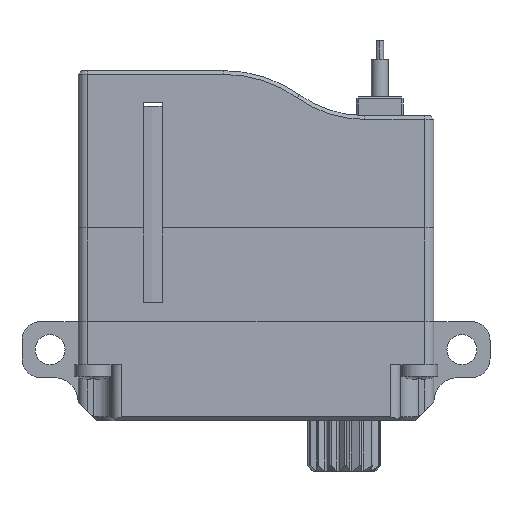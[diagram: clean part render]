
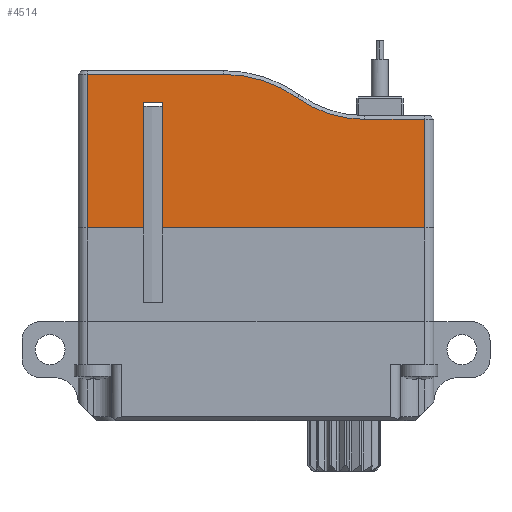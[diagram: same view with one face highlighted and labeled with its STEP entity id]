
A CAD part, front view. The second image highlights one B-rep face of the part: STEP entity #4514.
In plain terms, the highlighted planar face has unit normal (0, -1, 0).
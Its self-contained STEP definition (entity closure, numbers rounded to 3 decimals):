
#52 = ORIENTED_EDGE ( 'NONE', *, *, #14696, .T. ) ;
#75 = VERTEX_POINT ( 'NONE', #6049 ) ;
#145 = VECTOR ( 'NONE', #7122, 1000. ) ;
#371 = VECTOR ( 'NONE', #11311, 1000. ) ;
#415 = CARTESIAN_POINT ( 'NONE',  ( -80.26, -6.011, 9.7 ) ) ;
#563 = LINE ( 'NONE', #6783, #2134 ) ;
#824 = DIRECTION ( 'NONE',  ( 0., 1., 0. ) ) ;
#856 = VECTOR ( 'NONE', #13729, 1000. ) ;
#1046 = AXIS2_PLACEMENT_3D ( 'NONE', #5595, #10498, #15481 ) ;
#1111 = LINE ( 'NONE', #9747, #145 ) ;
#1167 = LINE ( 'NONE', #10070, #10736 ) ;
#1341 = VERTEX_POINT ( 'NONE', #11478 ) ;
#1348 = ORIENTED_EDGE ( 'NONE', *, *, #7304, .T. ) ;
#1588 = VERTEX_POINT ( 'NONE', #13563 ) ;
#2085 = EDGE_CURVE ( 'NONE', #3075, #75, #1111, .T. ) ;
#2134 = VECTOR ( 'NONE', #10651, 1000. ) ;
#2323 = EDGE_CURVE ( 'NONE', #10791, #1588, #1167, .T. ) ;
#2342 = LINE ( 'NONE', #16108, #15202 ) ;
#2735 = CARTESIAN_POINT ( 'NONE',  ( -65.26, -6.011, 3. ) ) ;
#2832 = DIRECTION ( 'NONE',  ( 0., 0., 1. ) ) ;
#3075 = VERTEX_POINT ( 'NONE', #2735 ) ;
#3479 = LINE ( 'NONE', #7605, #15184 ) ;
#3524 = EDGE_CURVE ( 'NONE', #7261, #12884, #7537, .T. ) ;
#3530 = DIRECTION ( 'NONE',  ( 0., 0., 1. ) ) ;
#3662 = LINE ( 'NONE', #13741, #371 ) ;
#3936 = ORIENTED_EDGE ( 'NONE', *, *, #4436, .F. ) ;
#4123 = CARTESIAN_POINT ( 'NONE',  ( -80.26, -6.011, 3. ) ) ;
#4222 = EDGE_CURVE ( 'NONE', #4671, #7261, #3479, .T. ) ;
#4266 = ORIENTED_EDGE ( 'NONE', *, *, #2323, .T. ) ;
#4436 = EDGE_CURVE ( 'NONE', #1341, #4671, #563, .T. ) ;
#4514 = ADVANCED_FACE ( 'NONE', ( #5588 ), #14288, .F. ) ;
#4558 = CARTESIAN_POINT ( 'NONE',  ( -83.76, -6.011, 4.2 ) ) ;
#4671 = VERTEX_POINT ( 'NONE', #415 ) ;
#4726 = LINE ( 'NONE', #4996, #856 ) ;
#4870 = VERTEX_POINT ( 'NONE', #11057 ) ;
#4996 = CARTESIAN_POINT ( 'NONE',  ( -79.26, -6.011, 9.7 ) ) ;
#5124 = DIRECTION ( 'NONE',  ( 0., 0., -1. ) ) ;
#5588 = FACE_OUTER_BOUND ( 'NONE', #12118, .T. ) ;
#5595 = CARTESIAN_POINT ( 'NONE',  ( -68.46, -6.011, 15. ) ) ;
#5989 = DIRECTION ( 'NONE',  ( -1., 0., 0. ) ) ;
#6049 = CARTESIAN_POINT ( 'NONE',  ( -79.26, -6.011, 3. ) ) ;
#6110 = CIRCLE ( 'NONE', #1046, 6.2 ) ;
#6609 = CARTESIAN_POINT ( 'NONE',  ( -75.986, -6.011, 4.4 ) ) ;
#6783 = CARTESIAN_POINT ( 'NONE',  ( -79.26, -6.011, 9.7 ) ) ;
#6970 = CARTESIAN_POINT ( 'NONE',  ( -72.05, -6.011, 9.945 ) ) ;
#7050 = EDGE_CURVE ( 'NONE', #4870, #13272, #2342, .T. ) ;
#7122 = DIRECTION ( 'NONE',  ( -1., 0., 0. ) ) ;
#7261 = VERTEX_POINT ( 'NONE', #4123 ) ;
#7304 = EDGE_CURVE ( 'NONE', #8642, #4870, #8147, .T. ) ;
#7537 = LINE ( 'NONE', #13456, #13947 ) ;
#7605 = CARTESIAN_POINT ( 'NONE',  ( -80.26, -6.011, 9.7 ) ) ;
#7749 = ORIENTED_EDGE ( 'NONE', *, *, #16032, .T. ) ;
#7891 = ORIENTED_EDGE ( 'NONE', *, *, #3524, .F. ) ;
#8114 = EDGE_CURVE ( 'NONE', #3075, #10791, #11584, .T. ) ;
#8147 = CIRCLE ( 'NONE', #15552, 6.8 ) ;
#8642 = VERTEX_POINT ( 'NONE', #6970 ) ;
#9122 = ORIENTED_EDGE ( 'NONE', *, *, #14455, .T. ) ;
#9244 = ORIENTED_EDGE ( 'NONE', *, *, #7050, .T. ) ;
#9559 = DIRECTION ( 'NONE',  ( 0., 0., 1. ) ) ;
#9747 = CARTESIAN_POINT ( 'NONE',  ( -65.26, -6.011, 3. ) ) ;
#10070 = CARTESIAN_POINT ( 'NONE',  ( -68.46, -6.011, 8.8 ) ) ;
#10498 = DIRECTION ( 'NONE',  ( 0., 1., 0. ) ) ;
#10651 = DIRECTION ( 'NONE',  ( -1., 0., 0. ) ) ;
#10736 = VECTOR ( 'NONE', #13112, 1000. ) ;
#10791 = VERTEX_POINT ( 'NONE', #12072 ) ;
#11057 = CARTESIAN_POINT ( 'NONE',  ( -75.986, -6.011, 11.2 ) ) ;
#11311 = DIRECTION ( 'NONE',  ( 0., 0., -1. ) ) ;
#11363 = CARTESIAN_POINT ( 'NONE',  ( -83.26, -6.011, 11.2 ) ) ;
#11378 = ORIENTED_EDGE ( 'NONE', *, *, #2085, .F. ) ;
#11478 = CARTESIAN_POINT ( 'NONE',  ( -79.26, -6.011, 9.7 ) ) ;
#11584 = LINE ( 'NONE', #14710, #13703 ) ;
#11704 = DIRECTION ( 'NONE',  ( 0., -1., 0. ) ) ;
#12072 = CARTESIAN_POINT ( 'NONE',  ( -65.26, -6.011, 8.8 ) ) ;
#12118 = EDGE_LOOP ( 'NONE', ( #12216, #4266, #9122, #1348, #9244, #7749, #7891, #13386, #3936, #52, #11378 ) ) ;
#12216 = ORIENTED_EDGE ( 'NONE', *, *, #8114, .T. ) ;
#12289 = AXIS2_PLACEMENT_3D ( 'NONE', #4558, #824, #9559 ) ;
#12341 = DIRECTION ( 'NONE',  ( -1., 0., 0. ) ) ;
#12705 = CARTESIAN_POINT ( 'NONE',  ( -83.26, -6.011, 3. ) ) ;
#12884 = VERTEX_POINT ( 'NONE', #12705 ) ;
#13112 = DIRECTION ( 'NONE',  ( -1., 0., 0. ) ) ;
#13272 = VERTEX_POINT ( 'NONE', #11363 ) ;
#13386 = ORIENTED_EDGE ( 'NONE', *, *, #4222, .F. ) ;
#13456 = CARTESIAN_POINT ( 'NONE',  ( -80.26, -6.011, 3. ) ) ;
#13563 = CARTESIAN_POINT ( 'NONE',  ( -68.46, -6.011, 8.8 ) ) ;
#13703 = VECTOR ( 'NONE', #3530, 1000. ) ;
#13729 = DIRECTION ( 'NONE',  ( 0., 0., -1. ) ) ;
#13741 = CARTESIAN_POINT ( 'NONE',  ( -83.26, -6.011, 4.2 ) ) ;
#13947 = VECTOR ( 'NONE', #12341, 1000. ) ;
#14288 = PLANE ( 'NONE',  #12289 ) ;
#14455 = EDGE_CURVE ( 'NONE', #1588, #8642, #6110, .T. ) ;
#14696 = EDGE_CURVE ( 'NONE', #1341, #75, #4726, .T. ) ;
#14710 = CARTESIAN_POINT ( 'NONE',  ( -65.26, -6.011, 4.2 ) ) ;
#15184 = VECTOR ( 'NONE', #5124, 1000. ) ;
#15202 = VECTOR ( 'NONE', #5989, 1000. ) ;
#15481 = DIRECTION ( 'NONE',  ( 0., 0., 1. ) ) ;
#15552 = AXIS2_PLACEMENT_3D ( 'NONE', #6609, #11704, #2832 ) ;
#16032 = EDGE_CURVE ( 'NONE', #13272, #12884, #3662, .T. ) ;
#16108 = CARTESIAN_POINT ( 'NONE',  ( -83.76, -6.011, 11.2 ) ) ;
